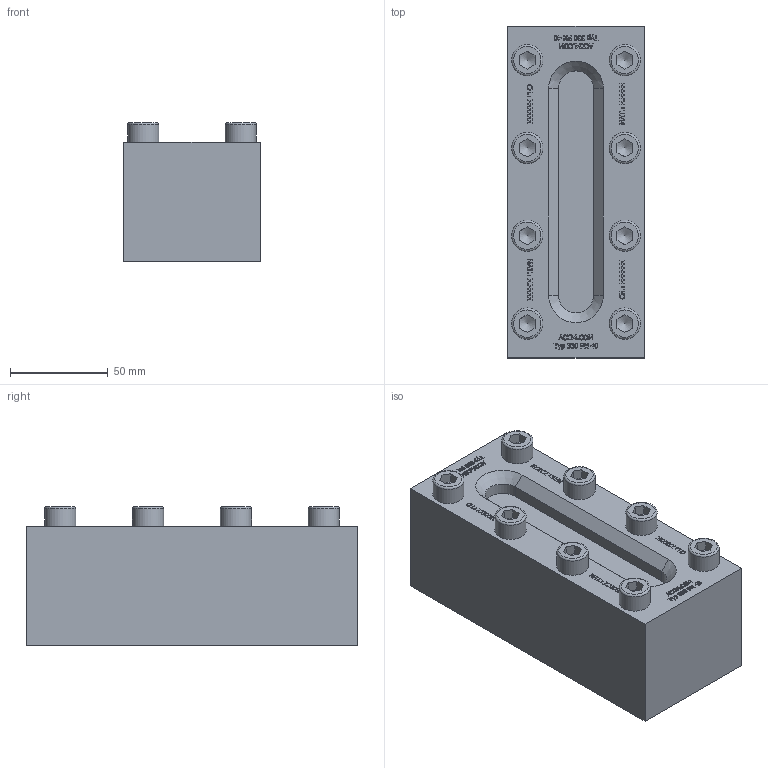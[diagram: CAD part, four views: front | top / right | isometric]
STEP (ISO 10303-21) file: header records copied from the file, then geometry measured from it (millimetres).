
FILE_DESCRIPTION(/* description */ (''),/* implementation_level */ '2;1');
FILE_NAME(/* name */ 'W:\Konstruktion_ACI\330\_Zeichnungen\STEP\ACI-330-170-40.stp',/* time_stamp */ '2022-03-01T17:08:14+01:00',/* author */ ('koslowksi'),/* organization */ (''),/* preprocessor_version */ 'ST-DEVELOPER v16.1',/* originating_system */ 'Autodesk Inventor 2016',/* authorisation */ '');
FILE_SCHEMA (('AUTOMOTIVE_DESIGN { 1 0 10303 214 3 1 1 }'));
Length unit declared in the file: centimetre
Products named in the file (1): ACI-330-170-40.stp
Bounding box: 70 x 170 x 70.9 mm (x, y, z)
Volume: 668522.8 mm3; surface area: 65769.6 mm2
Topology: 1 solids, 1 shells, 1196 faces, 3234 edges, 2152 vertices
Faces by surface type: plane 864, bspline 302, cylinder 12, cone 10, torus 8
Full cylindrical faces by diameter (mm): 16 x8
Entity records: 39508 total; most frequent: CARTESIAN_POINT 10549, ORIENTED_EDGE 6388, DIRECTION 4366, EDGE_CURVE 3194, LINE 2508, VECTOR 2508, VERTEX_POINT 2136, EDGE_LOOP 1332
